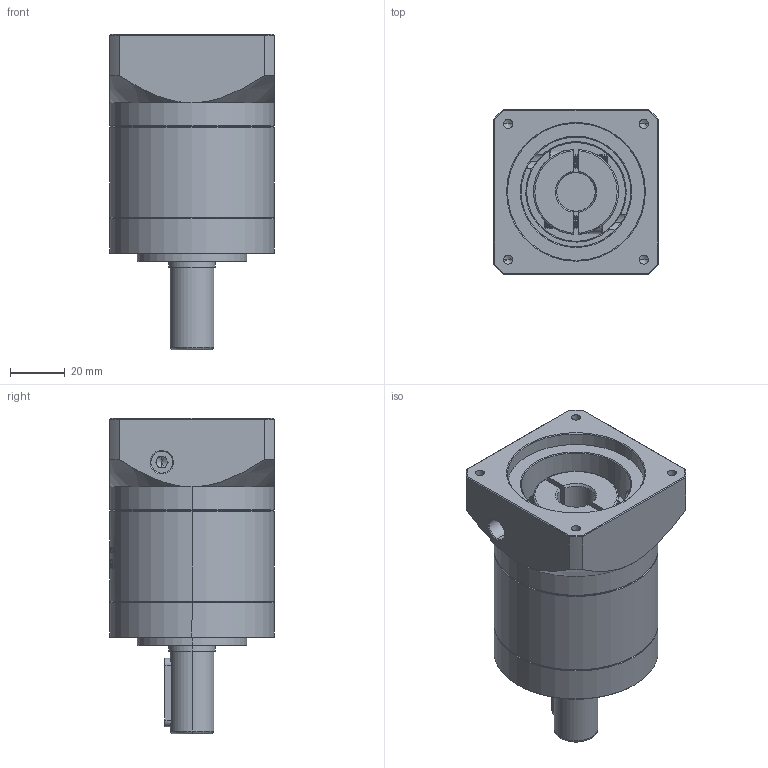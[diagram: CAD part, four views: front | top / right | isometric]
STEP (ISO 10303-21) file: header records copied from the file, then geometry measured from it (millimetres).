
FILE_DESCRIPTION (( 'STEP AP214' ), '1' );
FILE_NAME ('ZE60-D16-L1-14-50-70-M4.STEP', '2022-04-17T15:27:22', ( '' ), ( 'Microsoft' ), 'SwSTEP 2.0', 'SolidWorks 2016', '' );
FILE_SCHEMA (( 'AUTOMOTIVE_DESIGN' ));
Length unit declared in the file: millimetre
Products named in the file (1): ZE60-D16-L1-14-50-70-M4
Bounding box: 60 x 60 x 115 mm (x, y, z)
Volume: 214306.7 mm3; surface area: 42450.8 mm2
Topology: 6 solids, 6 shells, 1598 faces, 4328 edges, 2802 vertices
Faces by surface type: plane 724, cylinder 335, bspline 299, cone 222, torus 18
Entity records: 90508 total; most frequent: CARTESIAN_POINT 36421, ORIENTED_EDGE 8612, DIRECTION 6297, EDGE_CURVE 4306, VERTEX_POINT 2802, VECTOR 2203, LINE 2203, AXIS2_PLACEMENT_3D 2047
